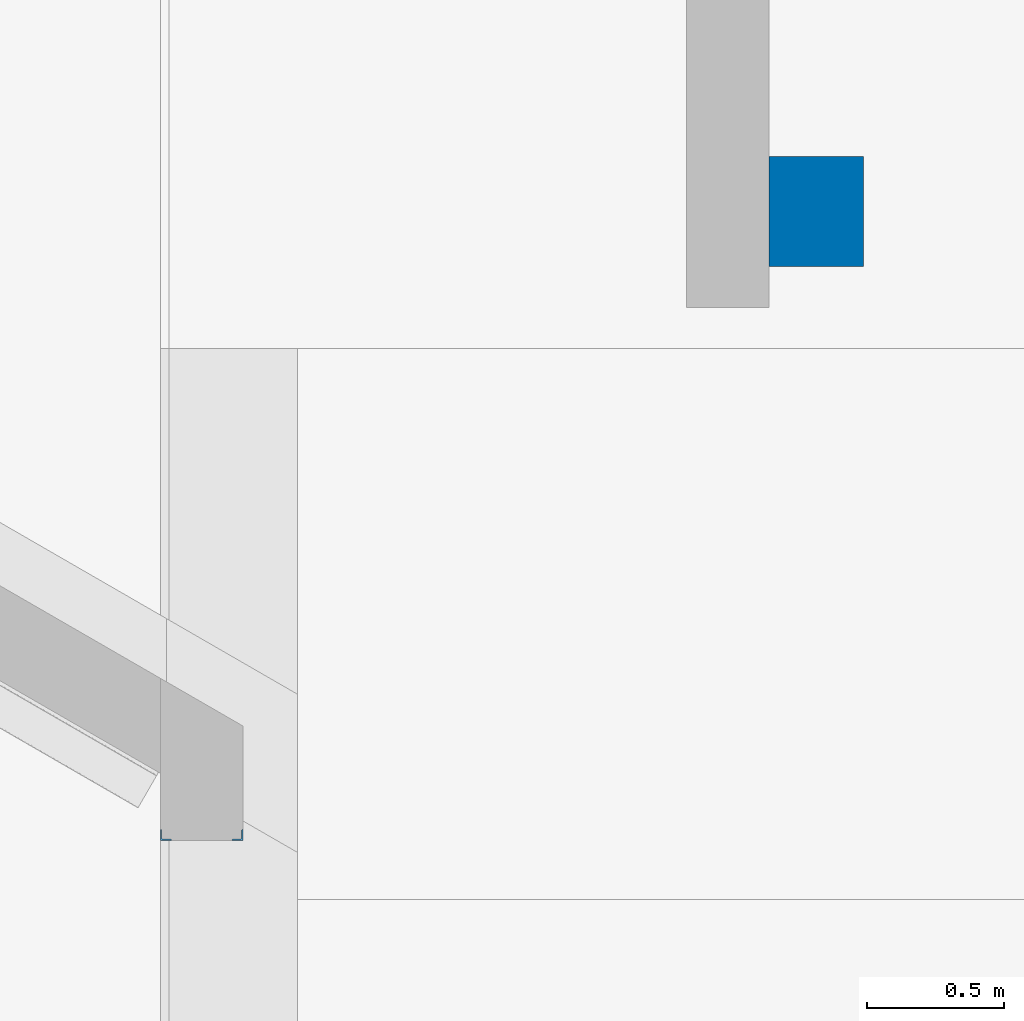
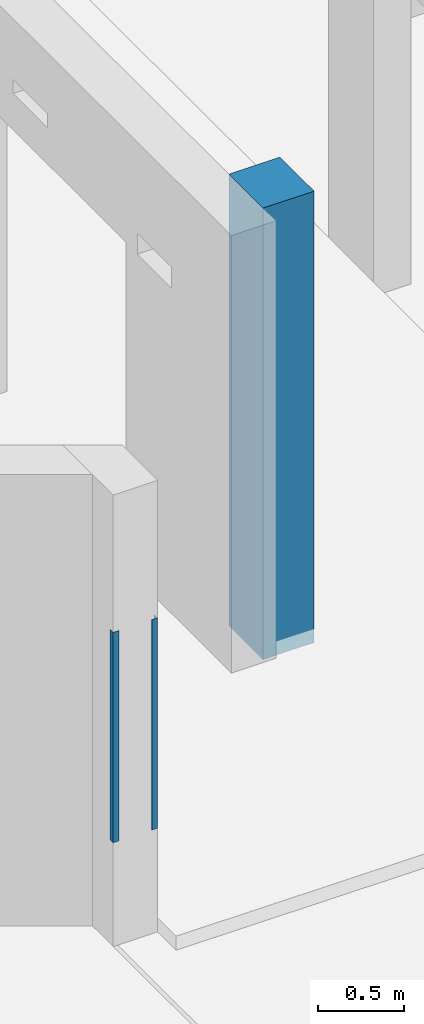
# One storey, part 6 of 42: 3 columns.
"""IFC2X3 building model written with IfcOpenShell, lengths in millimetres."""

from ifc_helpers import new_model, entity, si_unit, converted_unit, derived_unit, direction, frame, frame_2d, origin, origin_2d_with_axis, place, context, subcontext, project, spatial, polyline, circle_curve, parameter, trimmed, segment, composite_curve, rectangle, outline, extrude, source, transform, mapped, material, type_object, type_shapes, element, save


model = new_model("IFC2X3")

# Units and contexts
model_context = context("Model", 3, precision=0.01, world=origin(), true_north=direction((6.12303176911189e-17, 1.0)))
body_context = subcontext(model_context, "Body", "Model", "MODEL_VIEW")
ifc_project = project(units=[si_unit("LENGTHUNIT", "METRE", prefix="MILLI"), si_unit("AREAUNIT", "SQUARE_METRE", prefix="MILLI"), si_unit("VOLUMEUNIT", "CUBIC_METRE"), converted_unit("PLANEANGLEUNIT", "DEGREE", entity("IfcRatioMeasure", 0.0174532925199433), si_unit("PLANEANGLEUNIT", "RADIAN"), dimensions=[0, 0, 0, 0, 0, 0, 0]), si_unit("MASSUNIT", "GRAM", prefix="KILO"), derived_unit("MASSDENSITYUNIT", [(si_unit("MASSUNIT", "GRAM", prefix="KILO"), 1), (si_unit("LENGTHUNIT", "METRE"), -3)]), derived_unit("MOMENTOFINERTIAUNIT", [(si_unit("LENGTHUNIT", "METRE"), 4)]), si_unit("TIMEUNIT", "SECOND"), si_unit("FREQUENCYUNIT", "HERTZ"), si_unit("THERMODYNAMICTEMPERATUREUNIT", "DEGREE_CELSIUS"), derived_unit("THERMALTRANSMITTANCEUNIT", [(si_unit("MASSUNIT", "GRAM", prefix="KILO"), 1), (si_unit("THERMODYNAMICTEMPERATUREUNIT", "KELVIN"), -1), (si_unit("TIMEUNIT", "SECOND"), -3)]), derived_unit("VOLUMETRICFLOWRATEUNIT", [(si_unit("LENGTHUNIT", "METRE"), 3), (si_unit("TIMEUNIT", "SECOND"), -1)]), si_unit("ELECTRICCURRENTUNIT", "AMPERE"), si_unit("ELECTRICVOLTAGEUNIT", "VOLT"), si_unit("POWERUNIT", "WATT"), si_unit("FORCEUNIT", "NEWTON", prefix="KILO"), si_unit("ILLUMINANCEUNIT", "LUX"), si_unit("LUMINOUSFLUXUNIT", "LUMEN"), si_unit("LUMINOUSINTENSITYUNIT", "CANDELA"), derived_unit("USERDEFINED", [(si_unit("MASSUNIT", "GRAM", prefix="KILO"), -1), (si_unit("LENGTHUNIT", "METRE"), -2), (si_unit("TIMEUNIT", "SECOND"), 3), (si_unit("LUMINOUSFLUXUNIT", "LUMEN"), 1)]), derived_unit("LINEARVELOCITYUNIT", [(si_unit("LENGTHUNIT", "METRE"), 1), (si_unit("TIMEUNIT", "SECOND"), -1)]), si_unit("PRESSUREUNIT", "PASCAL"), derived_unit("USERDEFINED", [(si_unit("LENGTHUNIT", "METRE"), -2), (si_unit("MASSUNIT", "GRAM", prefix="KILO"), 1), (si_unit("TIMEUNIT", "SECOND"), -2)]), derived_unit("LINEARFORCEUNIT", [(si_unit("MASSUNIT", "GRAM", prefix="KILO"), 1), (si_unit("LENGTHUNIT", "METRE"), 1), (si_unit("TIMEUNIT", "SECOND"), -2), (si_unit("LENGTHUNIT", "METRE"), -1)]), derived_unit("PLANARFORCEUNIT", [(si_unit("MASSUNIT", "GRAM", prefix="KILO"), 1), (si_unit("LENGTHUNIT", "METRE"), 1), (si_unit("TIMEUNIT", "SECOND"), -2), (si_unit("LENGTHUNIT", "METRE"), -2)])], contexts=[model_context])

# Site, building, storey
site_placement = place(None, origin())
site = spatial("IfcSite", under=ifc_project, at=site_placement, Name="Theater aan de Parade", CompositionType="ELEMENT")
building_placement = place(site_placement, origin())
building = spatial("IfcBuilding", under=site, at=building_placement, Name="Theater aan de Parade", CompositionType="ELEMENT")
storey_placement = place(building_placement, frame((0.0, 0.0, -3300.0)))
storey = spatial("IfcBuildingStorey", under=building, at=storey_placement, Name="-1 kelder", CompositionType="ELEMENT", Elevation=-3300.0)

# Columns
ifc_material_1 = material(Name="00_PBT_MAT_beton t.p.g.")
column_type_1 = type_object("IfcColumnType", Name="28_PBT_SC_beton_rechthoekig:645x400_bestaand", PredefinedType="COLUMN", material=ifc_material_1)
shared_shape_1 = source(origin(), body_context, "Body", "SweptSolid", [
    extrude(rectangle(XDim=399.999999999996, YDim=344.996676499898, at=origin_2d_with_axis()), frame((71112.4983382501, 39760.0, -2640.0), z_axis=(0.0, 0.0, 1.0), x_axis=(0.0, -1.0, 0.0)), (0.0, 0.0, 1.0), 3220.0),
])
type_shapes(column_type_1, [shared_shape_1])
column_1_placement = place(storey_placement, frame((0.0, 0.0, 3300.0)))
element("IfcColumn", 1, at=column_1_placement, inside=storey, type_object=column_type_1, material=ifc_material_1, Name="28_PBT_SC_beton_rechthoekig:645x400_bestaand", ObjectType="28_PBT_SC_beton_rechthoekig:645x400_bestaand", context=body_context, shape_type="MappedRepresentation", body=[
    mapped(shared_shape_1, transform((0.0, 0.0, 0.0), scale=1.0)),
])
ifc_material_2 = material(Name="00_PBT_MAT_staal")
column_type_2 = type_object("IfcColumnType", Name="28_PBT_SC_staal_L-profiel:L40x40x4_bestaand", PredefinedType="COLUMN", material=ifc_material_2)
shared_shape_2 = source(origin(), body_context, "Body", "SweptSolid", [
    extrude(outline(composite_curve([segment(polyline([(-15.1111111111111, -15.1111111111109), (24.8888888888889, -15.1111111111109)]), True, "CONTINUOUS"), segment(polyline([(24.8888888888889, -15.1111111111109), (24.8888888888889, -14.1111111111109)]), True, "CONTINUOUS"), segment(trimmed(circle_curve(frame_2d((21.8888888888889, -14.1111111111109), x_axis=(1.0, 0.0)), 3.0), [parameter(0.0)], [parameter(90.0000000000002)], True, "PARAMETER"), True, "CONTINUOUS"), segment(polyline([(21.8888888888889, -11.1111111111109), (-5.11111111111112, -11.1111111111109)]), True, "CONTINUOUS"), segment(trimmed(circle_curve(frame_2d((-5.11111111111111, -5.11111111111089), x_axis=(0.0, -1.0)), 6.0), [parameter(270.0)], [parameter(0.0)], True, "PARAMETER"), False, "CONTINUOUS"), segment(polyline([(-11.1111111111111, -5.11111111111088), (-11.1111111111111, 21.8888888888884)]), True, "CONTINUOUS"), segment(trimmed(circle_curve(frame_2d((-14.1111111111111, 21.8888888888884), x_axis=(1.0, 0.0)), 3.0), [parameter(0.0)], [parameter(90.0000000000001)], True, "PARAMETER"), True, "CONTINUOUS"), segment(polyline([(-14.1111111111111, 24.8888888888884), (-15.1111111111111, 24.8888888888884)]), True, "CONTINUOUS"), segment(polyline([(-15.1111111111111, 24.8888888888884), (-15.1111111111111, -15.1111111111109)]), True, "CONTINUOUS")], self_intersect=False)), frame((3.91111111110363, -3.9111111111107, -1900.0), z_axis=(0.0, 0.0, 1.0), x_axis=(0.0, -1.0, 0.0)), (0.0, 0.0, 1.0), 1500.0),
])
type_shapes(column_type_2, [shared_shape_2])
column_2_placement = place(storey_placement, frame((69008.8000000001, 37476.6466493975, 3300.0), z_axis=(0.0, 0.0, 1.0), x_axis=(-1.0, 0.0, 0.0)))
element("IfcColumn", 2, at=column_2_placement, inside=storey, type_object=column_type_2, material=ifc_material_2, Name="28_PBT_SC_staal_L-profiel:L40x40x4_bestaand", ObjectType="28_PBT_SC_staal_L-profiel:L40x40x4_bestaand", context=body_context, shape_type="MappedRepresentation", body=[
    mapped(shared_shape_2, transform((0.0, 0.0, 0.0), scale=1.0)),
])
column_type_3 = type_object("IfcColumnType", Name="28_PBT_SC_staal_L-profiel:L40x40x4_bestaand", PredefinedType="COLUMN", material=ifc_material_2)
shared_shape_3 = source(origin(), body_context, "Body", "SweptSolid", [
    extrude(outline(composite_curve([segment(polyline([(-24.8888888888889, -15.1111111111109), (15.1111111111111, -15.1111111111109)]), True, "CONTINUOUS"), segment(polyline([(15.1111111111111, -15.1111111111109), (15.1111111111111, 24.8888888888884)]), True, "CONTINUOUS"), segment(polyline([(15.1111111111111, 24.8888888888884), (14.1111111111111, 24.8888888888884)]), True, "CONTINUOUS"), segment(trimmed(circle_curve(frame_2d((14.1111111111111, 21.8888888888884), x_axis=(0.0, 1.0)), 3.0), [parameter(0.0)], [parameter(89.9999999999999)], True, "PARAMETER"), True, "CONTINUOUS"), segment(polyline([(11.1111111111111, 21.8888888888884), (11.1111111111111, -5.11111111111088)]), True, "CONTINUOUS"), segment(trimmed(circle_curve(frame_2d((5.1111111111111, -5.1111111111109), x_axis=(1.0, 0.0)), 6.0), [parameter(270.0)], [parameter(0.0)], True, "PARAMETER"), False, "CONTINUOUS"), segment(polyline([(5.11111111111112, -11.1111111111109), (-21.8888888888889, -11.1111111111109)]), True, "CONTINUOUS"), segment(trimmed(circle_curve(frame_2d((-21.8888888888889, -14.1111111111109), x_axis=(0.0, 1.0)), 3.0), [parameter(0.0)], [parameter(90.0000000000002)], True, "PARAMETER"), True, "CONTINUOUS"), segment(polyline([(-24.8888888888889, -14.1111111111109), (-24.8888888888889, -15.1111111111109)]), True, "CONTINUOUS")], self_intersect=False)), frame((3.91111111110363, 3.91111111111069, -1900.0), z_axis=(0.0, 0.0, 1.0), x_axis=(0.0, -1.0, 0.0)), (0.0, 0.0, 1.0), 1500.0),
])
type_shapes(column_type_3, [shared_shape_3])
column_3_placement = place(storey_placement, frame((68731.2000000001, 37476.6466493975, 3300.0)))
element("IfcColumn", 3, at=column_3_placement, inside=storey, type_object=column_type_3, material=ifc_material_2, Name="28_PBT_SC_staal_L-profiel:L40x40x4_bestaand", ObjectType="28_PBT_SC_staal_L-profiel:L40x40x4_bestaand", context=body_context, shape_type="MappedRepresentation", body=[
    mapped(shared_shape_3, transform((0.0, 0.0, 0.0), scale=1.0)),
])

save(model, "model.ifc")
